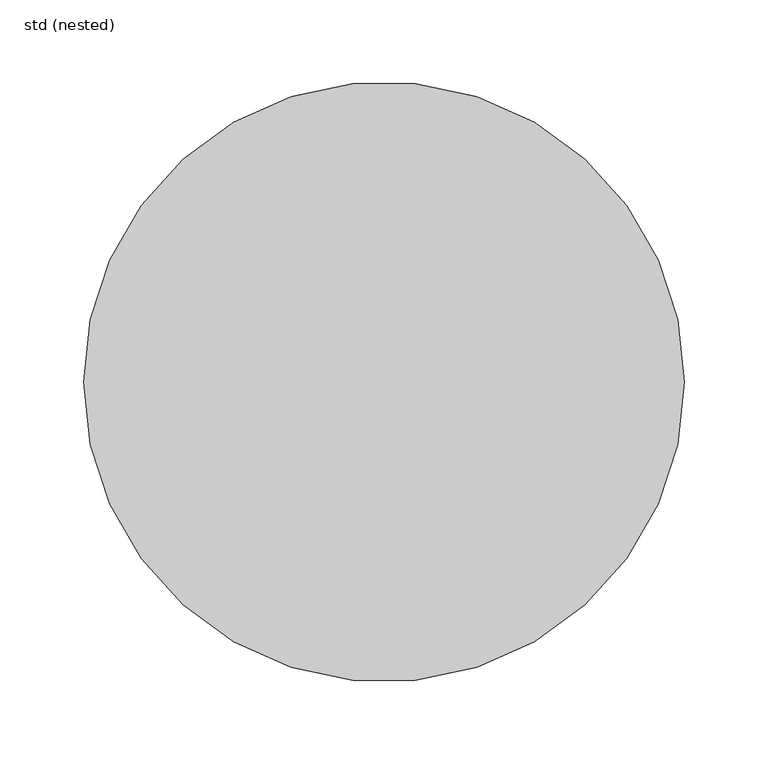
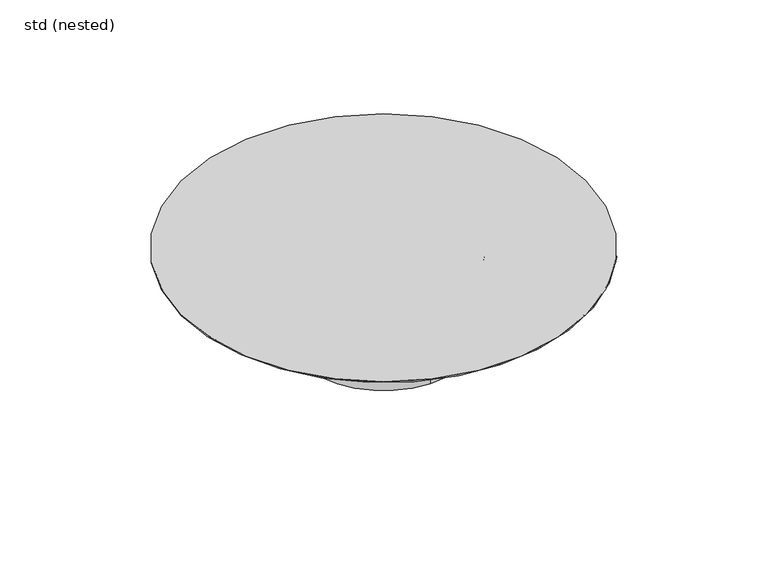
"""IFC4 building model written with IfcOpenShell, lengths in millimetres: sanitary terminal geometry, ZZZ_do not use_PF_ST_UN_raising piece telescopic hygienic gully_ACO : std (nested)."""

from ifc_helpers import new_model, si_unit, point, frame, origin, origin_with_axes, origin_2d, place, context, project, spatial, circle_curve, trimmed, segment, composite_curve, outline, extrude, source, transform, mapped, element, save
from ifc_brep_helpers import plane_surface, cylinder_surface, advanced_brep


def std_nested_918f101b(model_context):
    return source(origin(), model_context, "Body", "SolidModel", [
        extrude(outline(composite_curve([segment(trimmed(circle_curve(origin_2d(), 71.3), [point((0.0, -71.3))], [point((0.0, 71.3))], False, "CARTESIAN"), True, "CONTINUOUS"), segment(trimmed(circle_curve(origin_2d(), 71.3), [point((0.0, 71.3))], [point((0.0, -71.3))], False, "CARTESIAN"), True, "CONTINUOUS")], self_intersect=False)), frame((0.0, 0.0, -84.0), z_axis=(0.0, 0.0, 1.0), x_axis=(1.0, 0.0, 0.0)), (0.0, 0.0, 1.0), 50.5),
        advanced_brep(
        [(0.0, -78.5, -33.5), (0.0, 78.5, -33.5), (-179.0, 0.0, 0.0), (179.0, 0.0, 0.0), (0.0, -78.5, -1.0), (0.0, 78.5, -1.0), (-179.0, 0.0, -1.0), (179.0, 0.0, -1.0)],
        [
            (0, 1, circle_curve(frame((0.0, 0.0, -33.5), z_axis=(0.0, 0.0, -1.0), x_axis=(0.0, 1.0, 0.0)), 78.5)),
            (1, 0, circle_curve(frame((0.0, 0.0, -33.5), z_axis=(0.0, 0.0, -1.0), x_axis=(0.0, 1.0, 0.0)), 78.5)),
            (2, 3, circle_curve(origin_with_axes(), 179.0)),
            (3, 2, circle_curve(origin_with_axes(), 179.0)),
            (0, 4),
            (4, 5, circle_curve(frame((0.0, 0.0, -1.0), z_axis=(0.0, 0.0, -1.0), x_axis=(0.0, 1.0, 0.0)), 78.5)),
            (5, 1),
            (5, 4, circle_curve(frame((0.0, 0.0, -1.0), z_axis=(0.0, 0.0, -1.0), x_axis=(0.0, 1.0, 0.0)), 78.5)),
            (6, 7, circle_curve(frame((0.0, 0.0, -1.0), z_axis=(0.0, 0.0, -1.0), x_axis=(1.0, 0.0, 0.0)), 179.0)),
            (7, 6, circle_curve(frame((0.0, 0.0, -1.0), z_axis=(0.0, 0.0, -1.0), x_axis=(1.0, 0.0, 0.0)), 179.0)),
            (7, 3),
            (2, 6),
        ],
        [
            plane_surface(frame((0.0, 78.5, -33.5), z_axis=(0.0, 0.0, -1.0), x_axis=(1.0, 0.0, 0.0))),
            plane_surface(frame((0.0, 78.5, 0.0), z_axis=(0.0, 0.0, 1.0), x_axis=(-1.0, 0.0, 0.0))),
            cylinder_surface(frame((0.0, 0.0, 0.0), z_axis=(0.0, 0.0, -1.0), x_axis=(0.0, 1.0, 0.0)), 78.5),
            plane_surface(frame((179.0, 0.0, -1.0), z_axis=(0.0, 0.0, -1.0), x_axis=(0.0, -1.0, 0.0))),
            cylinder_surface(frame((0.0, 0.0, -1.0), z_axis=(0.0, 0.0, 1.0), x_axis=(1.0, 0.0, 0.0)), 179.0),
        ],
        [
            (0, [[1, 2]]),
            (1, [[3, 4]]),
            (2, [[-1, 5, 6, 7]]),
            (2, [[-2, -7, 8, -5]]),
            (3, [[9, 10], [-6, -8]]),
            (4, [[-10, 11, -3, 12]]),
            (4, [[-9, -12, -4, -11]]),
        ],
    ),
    ])


if __name__ == "__main__":
    model = new_model("IFC4")
    model_context = context("Model", 3, world=origin())
    ifc_project = project(units=[si_unit("LENGTHUNIT", "METRE", prefix="MILLI")], contexts=[model_context])
    site = spatial("IfcSite", under=ifc_project)
    building = spatial("IfcBuilding", under=site)
    placement = place(None, origin())
    std_nested_shape = std_nested_918f101b(model_context)
    element("IfcSanitaryTerminal", 1, ObjectType="ZZZ_do not use_PF_ST_UN_raising piece telescopic hygienic gully_ACO : std (nested)", at=placement, inside=building, context=model_context, shape_type="MappedRepresentation", body=[
        mapped(std_nested_shape, transform((0.0, 0.0, 0.0), x_axis=(1.0, 0.0, 0.0), y_axis=(0.0, 1.0, 0.0), z_axis=(0.0, 0.0, 1.0))),
    ])
    save(model, "model.ifc")
